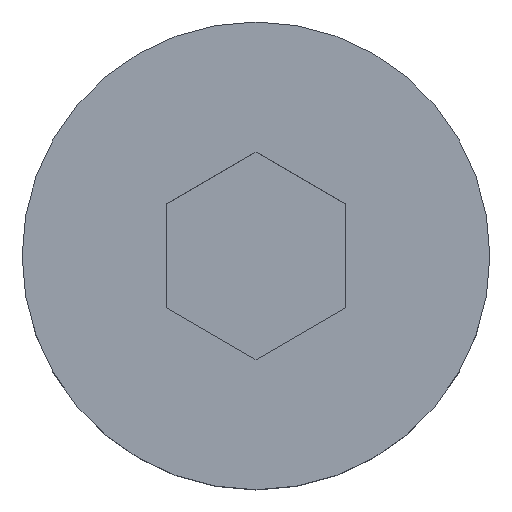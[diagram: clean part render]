
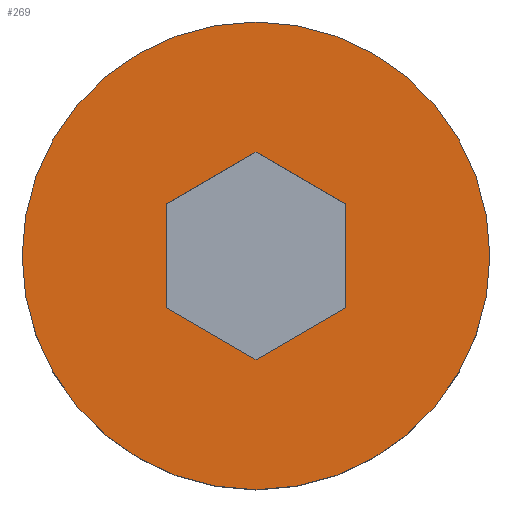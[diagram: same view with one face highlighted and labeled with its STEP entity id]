
A CAD part, top view. The second image highlights one B-rep face of the part: STEP entity #269.
In plain terms, the highlighted planar face has unit normal (0, 0, 1).
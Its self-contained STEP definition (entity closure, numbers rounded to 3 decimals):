
#13 = ORIENTED_EDGE ( 'NONE', *, *, #421, .T. ) ;
#30 = LINE ( 'NONE', #205, #543 ) ;
#48 = VECTOR ( 'NONE', #398, 1000. ) ;
#62 = VERTEX_POINT ( 'NONE', #132 ) ;
#69 = ORIENTED_EDGE ( 'NONE', *, *, #369, .T. ) ;
#71 = CARTESIAN_POINT ( 'NONE',  ( 13., 0., 8. ) ) ;
#73 = CARTESIAN_POINT ( 'NONE',  ( 5., 2.887, 8. ) ) ;
#85 = DIRECTION ( 'NONE',  ( 0., 0., 1. ) ) ;
#115 = VECTOR ( 'NONE', #780, 1000. ) ;
#119 = FACE_BOUND ( 'NONE', #924, .T. ) ;
#123 = CARTESIAN_POINT ( 'NONE',  ( 5., -2.887, 8. ) ) ;
#132 = CARTESIAN_POINT ( 'NONE',  ( 0., 5.774, 8. ) ) ;
#150 = LINE ( 'NONE', #855, #115 ) ;
#170 = CARTESIAN_POINT ( 'NONE',  ( 13., 0., 8. ) ) ;
#179 = AXIS2_PLACEMENT_3D ( 'NONE', #521, #1132, #603 ) ;
#205 = CARTESIAN_POINT ( 'NONE',  ( 5., 0., 8. ) ) ;
#206 = EDGE_CURVE ( 'NONE', #1144, #62, #841, .T. ) ;
#225 = AXIS2_PLACEMENT_3D ( 'NONE', #170, #810, #263 ) ;
#246 = AXIS2_PLACEMENT_3D ( 'NONE', #647, #85, #728 ) ;
#258 = VERTEX_POINT ( 'NONE', #71 ) ;
#263 = DIRECTION ( 'NONE',  ( -1., 0., 0. ) ) ;
#269 = ADVANCED_FACE ( 'NONE', ( #777, #119 ), #719, .F. ) ;
#295 = DIRECTION ( 'NONE',  ( 0., 1., 0. ) ) ;
#300 = DIRECTION ( 'NONE',  ( 0.866, -0.5, 0. ) ) ;
#334 = ORIENTED_EDGE ( 'NONE', *, *, #565, .F. ) ;
#357 = DIRECTION ( 'NONE',  ( -0.866, -0.5, 0. ) ) ;
#369 = EDGE_CURVE ( 'NONE', #258, #1126, #932, .T. ) ;
#383 = ORIENTED_EDGE ( 'NONE', *, *, #206, .F. ) ;
#393 = ORIENTED_EDGE ( 'NONE', *, *, #405, .F. ) ;
#398 = DIRECTION ( 'NONE',  ( 0., -1., 0. ) ) ;
#405 = EDGE_CURVE ( 'NONE', #62, #620, #496, .T. ) ;
#421 = EDGE_CURVE ( 'NONE', #1126, #258, #430, .T. ) ;
#430 = CIRCLE ( 'NONE', #179, 13. ) ;
#444 = CARTESIAN_POINT ( 'NONE',  ( 0., -5.774, 8. ) ) ;
#468 = CARTESIAN_POINT ( 'NONE',  ( 7.25, 9.959, 8. ) ) ;
#471 = ORIENTED_EDGE ( 'NONE', *, *, #781, .F. ) ;
#496 = LINE ( 'NONE', #468, #668 ) ;
#504 = CARTESIAN_POINT ( 'NONE',  ( -5., 2.887, 8. ) ) ;
#521 = CARTESIAN_POINT ( 'NONE',  ( 0., 0., 8. ) ) ;
#522 = CARTESIAN_POINT ( 'NONE',  ( 7.25, -9.959, 8. ) ) ;
#543 = VECTOR ( 'NONE', #295, 1000. ) ;
#565 = EDGE_CURVE ( 'NONE', #731, #1144, #30, .T. ) ;
#603 = DIRECTION ( 'NONE',  ( 1., 0., 0. ) ) ;
#616 = LINE ( 'NONE', #522, #847 ) ;
#620 = VERTEX_POINT ( 'NONE', #504 ) ;
#647 = CARTESIAN_POINT ( 'NONE',  ( 0., 0., 8. ) ) ;
#660 = EDGE_CURVE ( 'NONE', #620, #831, #753, .T. ) ;
#668 = VECTOR ( 'NONE', #357, 1000. ) ;
#680 = ORIENTED_EDGE ( 'NONE', *, *, #733, .F. ) ;
#719 = PLANE ( 'NONE',  #225 ) ;
#728 = DIRECTION ( 'NONE',  ( 1., 0., 0. ) ) ;
#731 = VERTEX_POINT ( 'NONE', #123 ) ;
#733 = EDGE_CURVE ( 'NONE', #831, #960, #616, .T. ) ;
#753 = LINE ( 'NONE', #947, #48 ) ;
#777 = FACE_OUTER_BOUND ( 'NONE', #830, .T. ) ;
#780 = DIRECTION ( 'NONE',  ( 0.866, 0.5, 0. ) ) ;
#781 = EDGE_CURVE ( 'NONE', #960, #731, #150, .T. ) ;
#797 = CARTESIAN_POINT ( 'NONE',  ( 12.25, -1.299, 8. ) ) ;
#810 = DIRECTION ( 'NONE',  ( 0., 0., -1. ) ) ;
#830 = EDGE_LOOP ( 'NONE', ( #69, #13 ) ) ;
#831 = VERTEX_POINT ( 'NONE', #969 ) ;
#841 = LINE ( 'NONE', #797, #1029 ) ;
#847 = VECTOR ( 'NONE', #300, 1000. ) ;
#855 = CARTESIAN_POINT ( 'NONE',  ( 12.25, 1.299, 8. ) ) ;
#889 = ORIENTED_EDGE ( 'NONE', *, *, #660, .F. ) ;
#924 = EDGE_LOOP ( 'NONE', ( #393, #383, #334, #471, #680, #889 ) ) ;
#932 = CIRCLE ( 'NONE', #246, 13. ) ;
#947 = CARTESIAN_POINT ( 'NONE',  ( -5., 0., 8. ) ) ;
#960 = VERTEX_POINT ( 'NONE', #444 ) ;
#969 = CARTESIAN_POINT ( 'NONE',  ( -5., -2.887, 8. ) ) ;
#974 = CARTESIAN_POINT ( 'NONE',  ( -13., 0., 8. ) ) ;
#1029 = VECTOR ( 'NONE', #1171, 1000. ) ;
#1126 = VERTEX_POINT ( 'NONE', #974 ) ;
#1132 = DIRECTION ( 'NONE',  ( 0., 0., 1. ) ) ;
#1144 = VERTEX_POINT ( 'NONE', #73 ) ;
#1171 = DIRECTION ( 'NONE',  ( -0.866, 0.5, 0. ) ) ;
